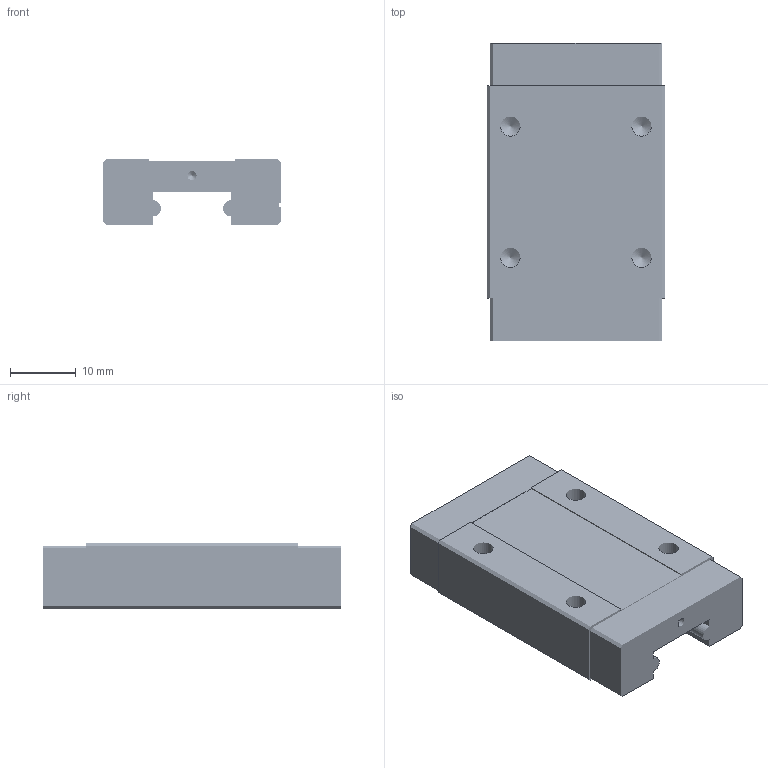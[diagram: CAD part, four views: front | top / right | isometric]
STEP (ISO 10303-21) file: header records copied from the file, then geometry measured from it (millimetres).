
FILE_DESCRIPTION(/* description */ ('STEP AP242 Edition 2','CAx-IF Rec.Pracs.---Representation and Presentation of Product Manufacturing Information (PMI)---4.0---2014-10-13','CAx-IF Rec.Pracs.---3D Tessellated Geometry---0.4---2014-09-14','2;1','CAx-IF Rec.Pracs.---User Defined Attributes---1.5---2016-08-15'),/* implementation_level */ '2;1');
FILE_NAME(/* name */ 'Assembly 1 - Carriage YRFC (1)',/* time_stamp */ '2026-10-08T06:00:11Z',/* author */ (''),/* organization */ (''),/* preprocessor_version */ 'ST-DEVELOPER v20',/* originating_system */ 'ONSHAPE BY PTC INC, 1.221',/* authorisation */ ' ');
FILE_SCHEMA (('AP242_MANAGED_MODEL_BASED_3D_ENGINEERING_MIM_LF { 1 0 10303 442 3 1 4 }'));
Length unit declared in the file: metre
Products named in the file (1): Carriage YRFC
Bounding box: 27 x 45.4 x 10 mm (x, y, z)
Surface area: 4499 mm2 (no closed solid volume)
Topology: 0 solids, 1 shells, 1 faces, 0 edges, 0 vertices
Faces by surface type: other 1
Entity records: 31 total; most frequent: DIRECTION 2, SHAPE_REPRESENTATION_RELATIONSHIP 1, TESSELLATED_SHAPE_REPRESENTATION 1, STYLED_ITEM 1, PRESENTATION_STYLE_ASSIGNMENT 1, SURFACE_STYLE_USAGE 1, SURFACE_SIDE_STYLE 1, SURFACE_STYLE_FILL_AREA 1
